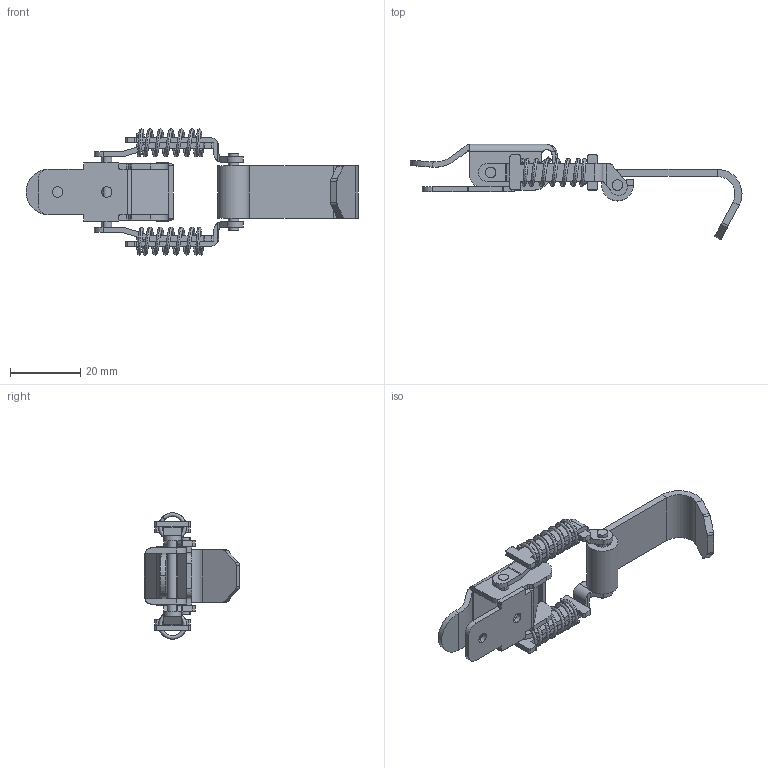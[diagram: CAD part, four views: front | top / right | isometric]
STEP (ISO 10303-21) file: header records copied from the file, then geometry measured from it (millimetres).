
FILE_DESCRIPTION (( 'STEP AP203' ), '1' );
FILE_NAME ('SK3-015.STEP', '2018-11-01T07:45:04', ( 'admin' ), ( 'Microsoft' ), 'SwSTEP 2.0', 'SolidWorks 2015', '' );
FILE_SCHEMA (( 'CONFIG_CONTROL_DESIGN' ));
Length unit declared in the file: millimetre
Products named in the file (11): SK3-015 蜇璃4; SK3-015 种隊1; SK3-015 种隊2; SK3-015 菁釱; SK3-015 粟銅; SK3-015 參忒; SK3-015; SK3-015 減諶; SK3-015 蜇璃1; SK3-015 蜇璃2; SK3-015 蜇璃3
Assembly tree (11 placements, depth 2):
  SK3-015
    SK3-015 菁釱
    SK3-015 參忒
    SK3-015 減諶
    SK3-015 蜇璃1
    SK3-015 蜇璃2
    SK3-015 蜇璃3
    SK3-015 蜇璃4
    SK3-015 种隊1
    SK3-015 种隊2
    SK3-015 粟銅  x2
Bounding box: 94.68 x 27.12 x 36 mm (x, y, z)
Volume: 6266.8 mm3; surface area: 9805.1 mm2
Topology: 11 solids, 11 shells, 266 faces, 698 edges, 452 vertices
Faces by surface type: plane 139, cylinder 119, bspline 6, torus 2
Entity records: 12971 total; most frequent: CARTESIAN_POINT 5144, DIRECTION 1428, ORIENTED_EDGE 1380, EDGE_CURVE 690, AXIS2_PLACEMENT_3D 500, VERTEX_POINT 448, VECTOR 428, LINE 428
